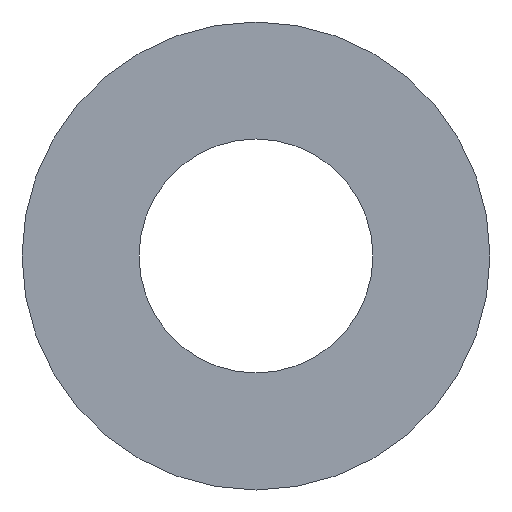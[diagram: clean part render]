
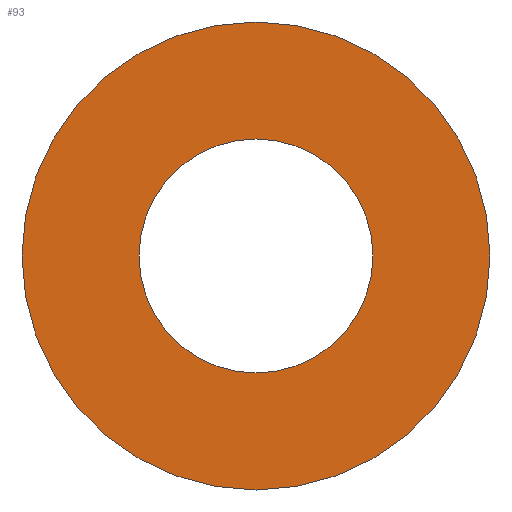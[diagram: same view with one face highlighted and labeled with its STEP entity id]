
A CAD part, front view. The second image highlights one B-rep face of the part: STEP entity #93.
In plain terms, the highlighted free-form (B-spline) face has degree [1, 1] with [2, 2] control points.
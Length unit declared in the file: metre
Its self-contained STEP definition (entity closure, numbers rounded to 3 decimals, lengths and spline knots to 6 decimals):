
#12=B_SPLINE_SURFACE_WITH_KNOTS('',1,1,((#182,#183),(#184,#185)),
 .PLANE_SURF.,.F.,.F.,.F.,(2,2),(2,2),(0.041942,0.956121),
(0.042732,0.954562),.PIECEWISE_BEZIER_KNOTS.);
#30=ORIENTED_EDGE('',*,*,#48,.T.);
#31=ORIENTED_EDGE('',*,*,#51,.T.);
#32=ORIENTED_EDGE('',*,*,#44,.T.);
#33=ORIENTED_EDGE('',*,*,#52,.T.);
#44=EDGE_CURVE('',#57,#56,#63,.T.);
#48=EDGE_CURVE('',#61,#60,#65,.F.);
#51=EDGE_CURVE('',#60,#61,#67,.F.);
#52=EDGE_CURVE('',#56,#57,#68,.T.);
#56=VERTEX_POINT('',#149);
#57=VERTEX_POINT('',#151);
#60=VERTEX_POINT('',#167);
#61=VERTEX_POINT('',#169);
#63=CIRCLE('',#110,0.009);
#65=CIRCLE('',#112,0.0045);
#67=CIRCLE('',#114,0.0045);
#68=CIRCLE('',#115,0.009);
#73=EDGE_LOOP('',(#30,#31));
#74=EDGE_LOOP('',(#32,#33));
#81=FACE_BOUND('',#73,.T.);
#82=FACE_BOUND('',#74,.T.);
#93=ADVANCED_FACE('',(#81,#82),#12,.F.);
#110=AXIS2_PLACEMENT_3D('',#150,#121,#122);
#112=AXIS2_PLACEMENT_3D('',#168,#125,#126);
#114=AXIS2_PLACEMENT_3D('',#181,#129,#130);
#115=AXIS2_PLACEMENT_3D('',#186,#131,#132);
#121=DIRECTION('',(0.,-1.,0.));
#122=DIRECTION('',(0.,0.,-1.));
#125=DIRECTION('',(0.,-1.,0.));
#126=DIRECTION('',(0.,0.,-1.));
#129=DIRECTION('',(0.,-1.,0.));
#130=DIRECTION('',(0.,0.,-1.));
#131=DIRECTION('',(0.,-1.,0.));
#132=DIRECTION('',(0.,0.,-1.));
#149=CARTESIAN_POINT('',(-0.039927,-0.01,-0.040499));
#150=CARTESIAN_POINT('',(-0.039927,-0.01,-0.031499));
#151=CARTESIAN_POINT('',(-0.039927,-0.01,-0.022499));
#167=CARTESIAN_POINT('',(-0.039927,-0.01,-0.035999));
#168=CARTESIAN_POINT('',(-0.039927,-0.01,-0.031499));
#169=CARTESIAN_POINT('',(-0.039927,-0.01,-0.026999));
#181=CARTESIAN_POINT('',(-0.039927,-0.01,-0.031499));
#182=CARTESIAN_POINT('',(-0.049105,-0.01,-0.022337));
#183=CARTESIAN_POINT('',(-0.049105,-0.01,-0.040608));
#184=CARTESIAN_POINT('',(-0.030787,-0.01,-0.022337));
#185=CARTESIAN_POINT('',(-0.030787,-0.01,-0.040608));
#186=CARTESIAN_POINT('',(-0.039927,-0.01,-0.031499));
